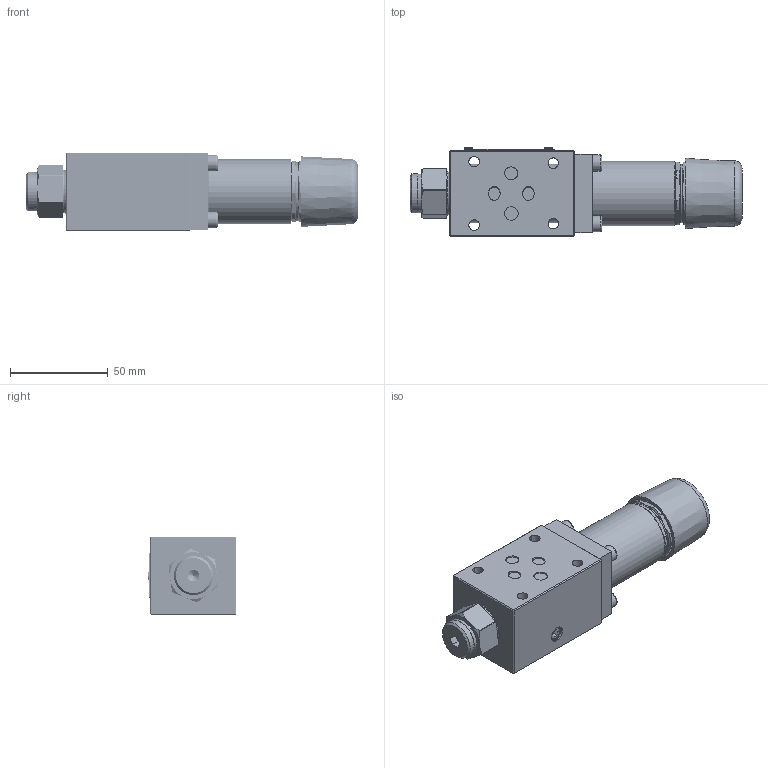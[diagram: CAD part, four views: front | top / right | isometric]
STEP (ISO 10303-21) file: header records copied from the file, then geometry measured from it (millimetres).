
FILE_DESCRIPTION(/* description */ (''),/* implementation_level */ '2;1');
FILE_NAME(/* name */ 'ZDR6DA-2-3XJ叠加式减压阀.stp',/* time_stamp */ '2022-06-10T13:44:02+08:00',/* author */ (''),/* organization */ (''),/* preprocessor_version */ 'ST-DEVELOPER v16.7',/* originating_system */ 'SIEMENS PLM Software NX 12.0',/* authorisation */ '');
FILE_SCHEMA (('AUTOMOTIVE_DESIGN { 1 0 10303 214 3 1 1 1 }'));
Products named in the file (1): ZDR6DA-2-3XJ叠加式减压阀
Bounding box: 169.83 x 45.5 x 40.39 mm (x, y, z)
Volume: 199579.2 mm3; surface area: 59433.4 mm2
Topology: 32 solids, 38 shells, 854 faces, 2134 edges, 1368 vertices
Faces by surface type: cylinder 354, plane 255, cone 93, bspline 84, torus 68
Full cylindrical faces by diameter (mm): 1.443 x2, 1.5 x2, 1.8 x2, 3 x2, 4 x2, 5.5 x4, 6 x3, 6.5 x1, 7 x1, 8.28 x4, 10 x1, 14.3 x1, 17.5 x2, 19.7 x2, 20 x2, 22.5 x2, 25 x2, 30 x2, 33 x1
Entity records: 110030 total; most frequent: CARTESIAN_POINT 92125, ORIENTED_EDGE 3994, DIRECTION 3082, EDGE_CURVE 1997, VERTEX_POINT 1343, AXIS2_PLACEMENT_3D 1201, EDGE_LOOP 1004, ADVANCED_FACE 850
